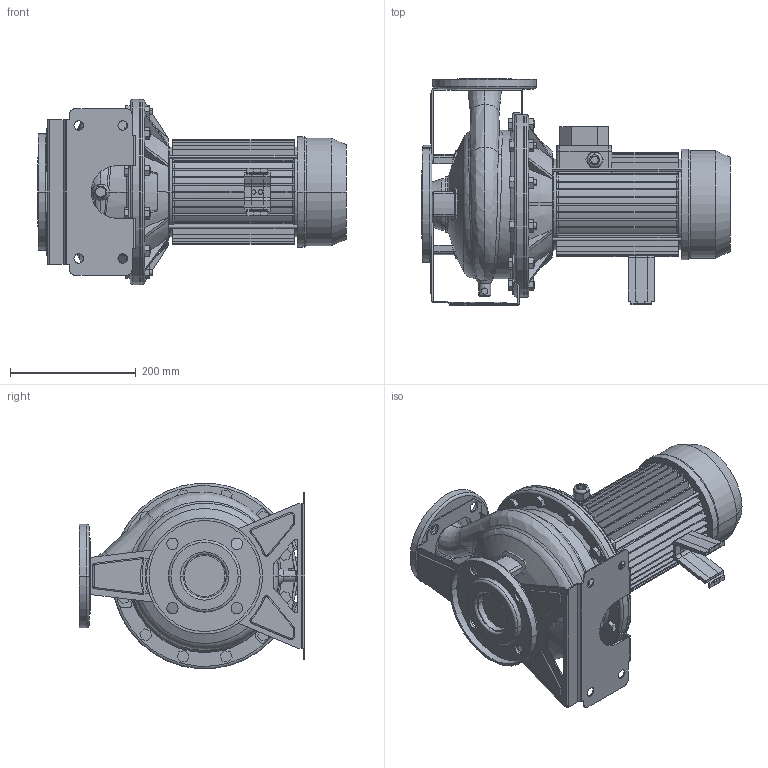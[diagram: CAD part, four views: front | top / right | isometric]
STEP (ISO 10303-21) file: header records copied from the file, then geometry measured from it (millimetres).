
FILE_DESCRIPTION((''),'2;1');
FILE_NAME('3M4_50-200_1_5_IE2_ASM','2012-03-14T',('Rosa'),('"Ebara Pumps Europe +39.444.706811"'),'PRO/ENGINEER BY PARAMETRIC TECHNOLOGY CORPORATION, 2009360','PRO/ENGINEER BY PARAMETRIC TECHNOLOGY CORPORATION, 2009360','');
FILE_SCHEMA(('AUTOMOTIVE_DESIGN { 1 0 10303 214 1 1 1 1 }'));
Length unit declared in the file: millimetre
Products named in the file (11): CORPO_50-200; ASP_50-200; FLANGIA_DIN_65; MAND_50-200; FLANGIA_DIN_50; BASE_3M_50-200; CORPO_SALDATO_50-200_ASM; SUPPORTO_3M_230_90; MEC_90X160_IE2; SOSTEGNO_72006; 3M4_50-200_1_5_IE2_ASM
Assembly tree (11 placements, depth 3):
  3M4_50-200_1_5_IE2_ASM
    CORPO_SALDATO_50-200_ASM
      CORPO_50-200
      ASP_50-200
      FLANGIA_DIN_65
      MAND_50-200
      FLANGIA_DIN_50
      BASE_3M_50-200
    SUPPORTO_3M_230_90
    MEC_90X160_IE2
    SOSTEGNO_72006  x2
Bounding box: 491 x 360 x 295.13 mm (x, y, z)
Volume: 10513765.8 mm3; surface area: 1305913.8 mm2
Topology: 13 solids, 13 shells, 1144 faces, 2920 edges, 1870 vertices
Faces by surface type: plane 641, cylinder 317, cone 90, torus 60, bspline 30, sphere 6
Entity records: 48070 total; most frequent: CARTESIAN_POINT 9411, DIRECTION 5771, ORIENTED_EDGE 5672, PRESENTATION_STYLE_ASSIGNMENT 2848, STYLED_ITEM 2848, CURVE_STYLE 2836, EDGE_CURVE 2836, AXIS2_PLACEMENT_3D 2062
